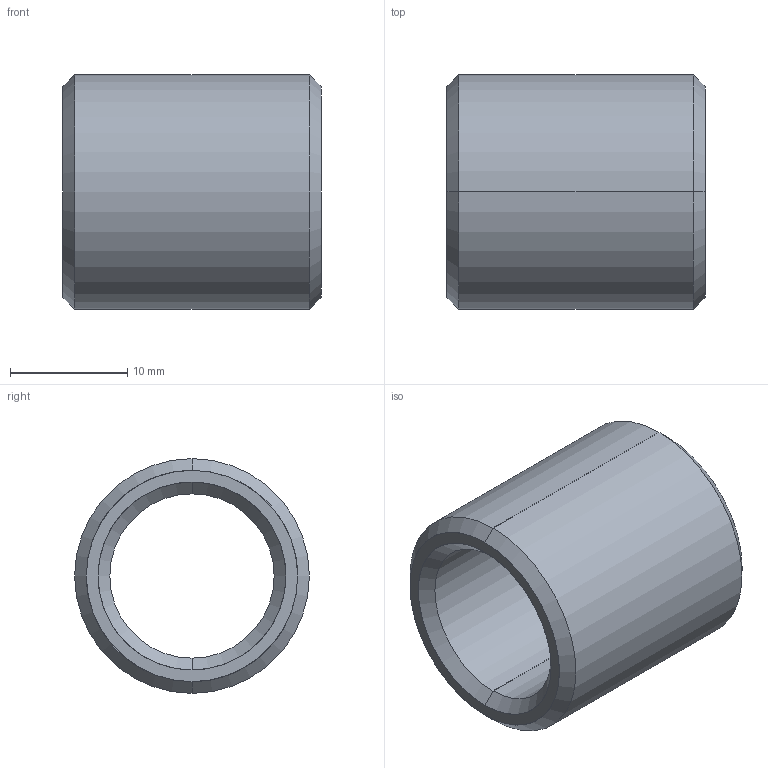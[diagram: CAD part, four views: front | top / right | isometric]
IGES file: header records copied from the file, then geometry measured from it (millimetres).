
Start section: START RECORD GO HERE.
Global section: file name: 352-14X22.igs; native system: DASSAULT SYSTEMES CATIA V5 R20 - www.3ds.com; preprocessor: CATIA Version 5 Release 20 ; author: Utente; organization: NB04-ASUS; date: 20210410.112137; units: millimetre
Bounding box: 22 x 20 x 20 mm (x, y, z)
Surface area: 2551.2 mm2 (no closed solid volume)
Topology: 0 solids, 0 shells, 14 faces, 88 edges, 88 vertices
Faces by surface type: revolution 12, plane 2
